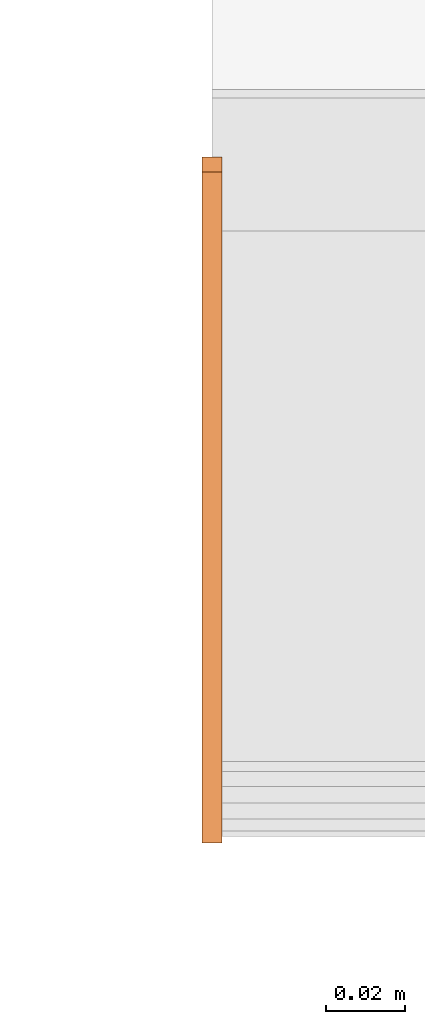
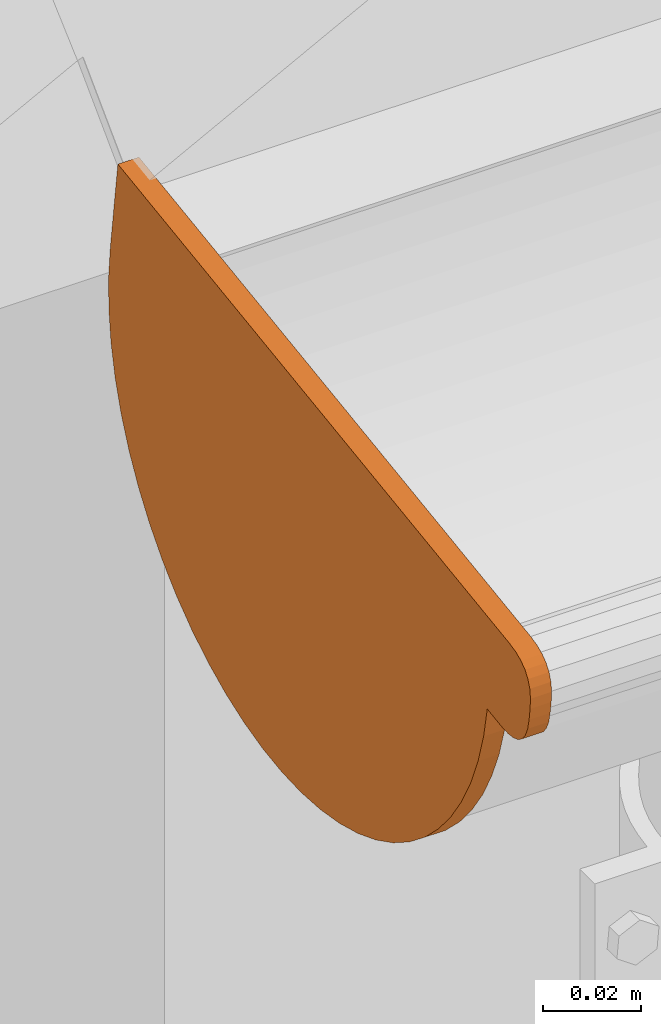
# One storey, part 24 of 43: 1 proxy.
"""IFC2X3 building model written with IfcOpenShell, lengths in millimetres."""

from ifc_helpers import new_model, si_unit, frame, origin_with_axes, place, context, project, spatial, faceted_brep, element, save


model = new_model("IFC2X3")

# Units and contexts
model_context = context("Model", 3, world=origin_with_axes())
ifc_project = project(units=[si_unit("LENGTHUNIT", "METRE", prefix="MILLI")], contexts=[model_context])

# Site, building, storey
site_placement = place(None, origin_with_axes())
site = spatial("IfcSite", under=ifc_project, at=site_placement, Name="Site", CompositionType="ELEMENT")
building_placement = place(site_placement, origin_with_axes())
building = spatial("IfcBuilding", under=site, at=building_placement, Name="?", CompositionType="ELEMENT")
storey_placement = place(building_placement, frame((0.0, 0.0, 5938.0), z_axis=(0.0, 0.0, 1.0), x_axis=(1.0, 0.0, 0.0)))
storey = spatial("IfcBuildingStorey", under=building, at=storey_placement, Name="Dachgeschoß", CompositionType="ELEMENT", Elevation=5938.0)

# Proxy
proxy_placement = place(None, origin_with_axes())
element("IfcBuildingElementProxy", 1, at=proxy_placement, inside=storey, Name="Dach03_RoofGutter#013", ObjectType="gutter", CompositionType="ELEMENT", context=model_context, shape_type="Brep", body=[
    faceted_brep([(4452.5, -7412.2509765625, 6644.93896484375), (4447.5, -7412.2509765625, 6644.93896484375), (4447.5, -7410.75647654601, 6637.18036494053), (4452.5, -7410.75647654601, 6637.18036494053), (4452.5, -7410.75634765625, 6637.18017578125), (4447.5, -7410.75634765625, 6637.18017578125), (4447.5, -7408.48454766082, 6629.61247599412), (4452.5, -7408.48454766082, 6629.61247599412), (4452.5, -7408.484375, 6629.6123046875), (4447.5, -7408.484375, 6629.6123046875), (4447.5, -7405.45867502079, 6622.31340452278), (4452.5, -7405.45867502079, 6622.31340452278), (4452.5, -7405.458984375, 6622.3134765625), (4447.5, -7405.458984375, 6622.3134765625), (4447.5, -7401.71028437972, 6615.35807661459), (4452.5, -7401.71028437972, 6615.35807661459), (4452.5, -7401.7099609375, 6615.35791015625), (4447.5, -7401.7099609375, 6615.35791015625), (4447.5, -7397.27686074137, 6608.817410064), (4452.5, -7397.27686074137, 6608.817410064), (4452.5, -7397.27734375, 6608.81787109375), (4447.5, -7397.27734375, 6608.81787109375), (4447.5, -7392.20534357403, 6602.75937116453), (4452.5, -7392.20534357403, 6602.75937116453), (4452.5, -7392.205078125, 6602.75927734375), (4447.5, -7392.205078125, 6602.75927734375), (4447.5, -7386.54617810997, 6597.24507732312), (4452.5, -7386.54617810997, 6597.24507732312), (4452.5, -7386.54638671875, 6597.2451171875), (4447.5, -7386.54638671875, 6597.2451171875), (4447.5, -7380.35858673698, 6592.33171697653), (4452.5, -7380.35858673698, 6592.33171697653), (4452.5, -7380.3583984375, 6592.33154296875), (4447.5, -7380.3583984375, 6592.33154296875), (4447.5, -7373.70539846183, 6588.06924304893), (4452.5, -7373.70539846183, 6588.06924304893), (4452.5, -7373.70556640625, 6588.0693359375), (4447.5, -7373.70556640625, 6588.0693359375), (4447.5, -7366.65536663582, 6584.50213591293), (4452.5, -7366.65536663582, 6584.50213591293), (4452.5, -7366.6552734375, 6584.501953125), (4447.5, -7366.6552734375, 6584.501953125), (4447.5, -7359.28037339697, 6581.66625324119), (4452.5, -7359.28037339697, 6581.66625324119), (4452.5, -7359.2802734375, 6581.66650390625), (4447.5, -7359.2802734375, 6581.66650390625), (4447.5, -7351.65637361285, 6579.59140394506), (4452.5, -7351.65637361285, 6579.59140394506), (4452.5, -7351.65625, 6579.59130859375), (4447.5, -7351.65625, 6579.59130859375), (4447.5, -7343.86154998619, 6578.29820858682), (4452.5, -7343.86154998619, 6578.29820858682), (4452.5, -7343.86181640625, 6578.29833984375), (4447.5, -7343.86181640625, 6578.29833984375), (4447.5, -7335.97621626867, 6577.80043982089), (4452.5, -7335.97621626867, 6577.80043982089), (4452.5, -7335.97607421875, 6577.80029296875), (4447.5, -7335.97607421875, 6577.80029296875), (4447.5, -7328.08057429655, 6578.10269295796), (4452.5, -7328.08057429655, 6578.10269295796), (4452.5, -7328.08056640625, 6578.1025390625), (4447.5, -7328.08056640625, 6578.1025390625), (4447.5, -7320.2561663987, 6579.20223903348), (4452.5, -7320.2561663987, 6579.20223903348), (4452.5, -7320.25634765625, 6579.2021484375), (4447.5, -7320.25634765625, 6579.2021484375), (4447.5, -7312.58334766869, 6581.08764841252), (4452.5, -7312.58334766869, 6581.08764841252), (4452.5, -7312.5830078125, 6581.087890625), (4447.5, -7312.5830078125, 6581.087890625), (4447.5, -7305.14020801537, 6583.74009059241), (4452.5, -7305.14020801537, 6583.74009059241), (4452.5, -7305.140625, 6583.740234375), (4447.5, -7305.140625, 6583.740234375), (4447.5, -7298.00422499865, 6587.13183440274), (4452.5, -7298.00422499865, 6587.13183440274), (4452.5, -7298.00390625, 6587.1318359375), (4447.5, -7298.00390625, 6587.1318359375), (4447.5, -7291.24730613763, 6591.22793584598), (4452.5, -7291.24730613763, 6591.22793584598), (4452.5, -7291.24755859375, 6591.2275390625), (4447.5, -7291.24755859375, 6591.2275390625), (4447.5, -7284.94005870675, 6595.98613897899), (4452.5, -7284.94005870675, 6595.98613897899), (4452.5, -7284.93994140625, 6595.986328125), (4447.5, -7284.93994140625, 6595.986328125), (4447.5, -7279.14614135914, 6601.35872833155), (4452.5, -7279.14614135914, 6601.35872833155), (4452.5, -7279.14599609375, 6601.35888671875), (4447.5, -7279.14599609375, 6601.35888671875), (4447.5, -7273.92549597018, 6607.28988671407), (4452.5, -7273.92549597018, 6607.28988671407), (4452.5, -7273.92578125, 6607.28955078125), (4447.5, -7273.92578125, 6607.28955078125), (4447.5, -7269.3319813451, 6613.71815090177), (4452.5, -7269.3319813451, 6613.71815090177), (4452.5, -7269.33203125, 6613.71826171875), (4447.5, -7269.33203125, 6613.71826171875), (4447.5, -7265.41233128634, 6620.57876151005), (4452.5, -7265.41233128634, 6620.57876151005), (4452.5, -7265.412109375, 6620.57861328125), (4447.5, -7265.412109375, 6620.57861328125), (4447.5, -7262.20650946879, 6627.80031313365), (4452.5, -7262.20650946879, 6627.80031313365), (4452.5, -7262.20654296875, 6627.80078125), (4447.5, -7262.20654296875, 6627.80078125), (4447.5, -7259.74794288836, 6635.30988116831), (4452.5, -7259.74794288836, 6635.30988116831), (4452.5, -7259.748046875, 6635.3095703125), (4447.5, -7259.748046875, 6635.3095703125), (4447.5, -7258.06184691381, 6643.02877046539), (4452.5, -7258.06184691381, 6643.02877046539), (4452.5, -7258.0615234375, 6643.02880859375), (4447.5, -7258.0615234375, 6643.02880859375), (4447.5, -7257.16482343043, 6650.87910882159), (4452.5, -7257.16482343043, 6650.87910882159), (4452.5, -7257.1650390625, 6650.87890625), (4447.5, -7257.1650390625, 6650.87890625), (4447.5, -7257.06723906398, 6658.77950638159), (4452.5, -7257.06723906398, 6658.77950638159), (4452.5, -7257.0673828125, 6658.77978515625), (4447.5, -7257.0673828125, 6658.77978515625), (4447.5, -7257.76928279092, 6666.64988526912), (4452.5, -7257.76928279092, 6666.64988526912), (4452.5, -7257.76904296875, 6666.64990234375), (4447.5, -7257.76904296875, 6666.64990234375), (4447.5, -7335.00994139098, 6655.79430188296), (4452.5, -7335.00994139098, 6655.79430188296), (4452.5, -7335.009765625, 6655.79443359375), (4447.5, -7335.009765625, 6655.79443359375), (4447.5, -7412.25066421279, 6644.93893386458), (4452.5, -7412.25066421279, 6644.93893386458), (4452.5, -7335.009765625, 6655.79443359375), (4452.5, -7258.061465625, 6643.02903359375), (4452.5, -7257.066965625, 6658.77993359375), (4452.5, -7257.768865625, 6666.65003359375), (4452.5, -7257.0673828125, 6658.77978515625), (4452.5, -7258.0618828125, 6643.02888515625), (4452.5, -7257.1651828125, 6650.87918515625), (4452.5, -7258.0615234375, 6643.02880859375), (4452.5, -7269.3316234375, 6613.71830859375), (4452.5, -7262.2063234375, 6627.80050859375), (4452.5, -7259.7477234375, 6635.30960859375), (4452.5, -7262.20654296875, 6627.80078125), (4452.5, -7269.33184296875, 6613.71858125), (4452.5, -7265.41214296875, 6620.57908125), (4452.5, -7335.009765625, 6655.79443359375), (4452.5, -7320.255965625, 6579.20253359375), (4452.5, -7269.331565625, 6613.71853359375), (4452.5, -7258.061465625, 6643.02903359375), (4452.5, -7269.33203125, 6613.71826171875), (4452.5, -7291.24763125, 6591.22766171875), (4452.5, -7279.14633125, 6601.35866171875), (4452.5, -7273.92583125, 6607.28966171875), (4452.5, -7279.14599609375, 6601.35888671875), (4452.5, -7291.24729609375, 6591.22788671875), (4452.5, -7284.93979609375, 6595.98648671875), (4452.5, -7291.24755859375, 6591.2275390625), (4452.5, -7320.25635859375, 6579.2021390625), (4452.5, -7305.14055859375, 6583.7398390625), (4452.5, -7298.00415859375, 6587.1314390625), (4452.5, -7305.140625, 6583.740234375), (4452.5, -7320.256425, 6579.202534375), (4452.5, -7312.583425, 6581.088034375), (4452.5, -7269.33203125, 6613.71826171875), (4452.5, -7320.25643125, 6579.20226171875), (4452.5, -7291.24763125, 6591.22766171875), (4452.5, -7320.25634765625, 6579.2021484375), (4452.5, -7351.65654765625, 6579.5910484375), (4452.5, -7335.97624765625, 6577.8000484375), (4452.5, -7328.08074765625, 6578.1024484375), (4452.5, -7335.97607421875, 6577.80029296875), (4452.5, -7351.65637421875, 6579.59129296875), (4452.5, -7343.86167421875, 6578.29819296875), (4452.5, -7351.65625, 6579.59130859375), (4452.5, -7380.35825, 6592.33160859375), (4452.5, -7366.65505, 6584.50210859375), (4452.5, -7359.28015, 6581.66640859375), (4452.5, -7366.6552734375, 6584.501953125), (4452.5, -7380.3584734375, 6592.331453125), (4452.5, -7373.7054734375, 6588.069153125), (4452.5, -7320.25634765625, 6579.2021484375), (4452.5, -7335.01014765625, 6655.7940484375), (4452.5, -7380.35854765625, 6592.3313484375), (4452.5, -7351.65654765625, 6579.5910484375), (4452.5, -7380.3583984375, 6592.33154296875), (4452.5, -7401.7101984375, 6615.35814296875), (4452.5, -7392.2050984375, 6602.75914296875), (4452.5, -7386.5461984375, 6597.24494296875), (4452.5, -7392.205078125, 6602.75927734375), (4452.5, -7401.710178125, 6615.35827734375), (4452.5, -7397.277078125, 6608.81777734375), (4452.5, -7335.009765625, 6655.79443359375), (4452.5, -7408.484365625, 6629.61263359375), (4452.5, -7401.709965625, 6615.35833359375), (4452.5, -7380.358165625, 6592.33173359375), (4452.5, -7401.7099609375, 6615.35791015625), (4452.5, -7408.4843609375, 6629.61221015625), (4452.5, -7405.4586609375, 6622.31331015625), (4452.5, -7335.009765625, 6655.79443359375), (4452.5, -7412.250665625, 6644.93893359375), (4452.5, -7410.756165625, 6637.18033359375), (4452.5, -7408.484365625, 6629.61263359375), (4447.5, -7410.75634765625, 6637.18017578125), (4447.5, -7397.27704765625, 6608.81767578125), (4447.5, -7405.45884765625, 6622.31357578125), (4447.5, -7408.48454765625, 6629.61247578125), (4447.5, -7405.458984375, 6622.3134765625), (4447.5, -7397.277184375, 6608.8175765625), (4447.5, -7401.710284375, 6615.3580765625), (4447.5, -7397.27734375, 6608.81787109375), (4447.5, -7373.70564375, 6588.06947109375), (4447.5, -7386.54644375, 6597.24517109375), (4447.5, -7392.20534375, 6602.75937109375), (4447.5, -7386.54638671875, 6597.2451171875), (4447.5, -7373.70558671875, 6588.0694171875), (4447.5, -7380.35858671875, 6592.3317171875), (4447.5, -7410.75634765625, 6637.18017578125), (4447.5, -7312.58314765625, 6581.08787578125), (4447.5, -7373.70534765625, 6588.06927578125), (4447.5, -7397.27704765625, 6608.81767578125), (4447.5, -7373.70556640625, 6588.0693359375), (4447.5, -7343.86186640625, 6578.2982359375), (4447.5, -7359.28046640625, 6581.6664359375), (4447.5, -7366.65536640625, 6584.5021359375), (4447.5, -7359.2802734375, 6581.66650390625), (4447.5, -7343.8616734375, 6578.29830390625), (4447.5, -7351.6563734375, 6579.59140390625), (4447.5, -7343.86181640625, 6578.29833984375), (4447.5, -7312.58331640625, 6581.08803984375), (4447.5, -7328.08071640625, 6578.10283984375), (4447.5, -7335.97621640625, 6577.80043984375), (4447.5, -7328.08056640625, 6578.1025390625), (4447.5, -7312.58316640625, 6581.0877390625), (4447.5, -7320.25616640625, 6579.2022390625), (4447.5, -7373.70556640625, 6588.0693359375), (4447.5, -7312.58336640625, 6581.0879359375), (4447.5, -7343.86186640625, 6578.2982359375), (4447.5, -7312.5830078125, 6581.087890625), (4447.5, -7284.9397078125, 6595.986390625), (4447.5, -7298.0038078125, 6587.131690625), (4447.5, -7305.1402078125, 6583.740090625), (4447.5, -7298.00390625, 6587.1318359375), (4447.5, -7284.93980625, 6595.9865359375), (4447.5, -7291.24730625, 6591.2279359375), (4447.5, -7284.93994140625, 6595.986328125), (4447.5, -7265.41214140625, 6620.578828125), (4447.5, -7273.92564140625, 6607.289728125), (4447.5, -7279.14614140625, 6601.358728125), (4447.5, -7273.92578125, 6607.28955078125), (4447.5, -7265.41228125, 6620.57865078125), (4447.5, -7269.33198125, 6613.71815078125), (4447.5, -7312.5830078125, 6581.087890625), (4447.5, -7410.7562078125, 6637.180190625), (4447.5, -7265.4119078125, 6620.578890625), (4447.5, -7284.9397078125, 6595.986390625), (4447.5, -7265.412109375, 6620.57861328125), (4447.5, -7257.165009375, 6650.87891328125), (4447.5, -7259.747909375, 6635.30941328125), (4447.5, -7262.206509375, 6627.80031328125), (4447.5, -7259.748046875, 6635.3095703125), (4447.5, -7257.165146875, 6650.8790703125), (4447.5, -7258.061846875, 6643.0287703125), (4447.5, -7410.75634765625, 6637.18017578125), (4447.5, -7257.76904765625, 6666.64987578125), (4447.5, -7257.16494765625, 6650.87917578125), (4447.5, -7265.41204765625, 6620.57887578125), (4447.5, -7257.1650390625, 6650.87890625), (4447.5, -7257.7691390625, 6666.64960625), (4447.5, -7257.0672390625, 6658.77950625), (4447.5, -7410.75634765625, 6637.18017578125), (4447.5, -7412.25084765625, 6644.93877578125), (4447.5, -7335.00994765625, 6655.79427578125), (4447.5, -7257.76904765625, 6666.64987578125), (4447.5, -7257.76904296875, 6666.64990234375), (4452.5, -7257.76904296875, 6666.64990234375), (4452.5, -7418.09054740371, 6644.10700284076), (4447.5, -7418.09054740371, 6644.10700284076), (4447.5, -7260.8671875, 6689.42919921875), (4447.5, -7421.29158760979, 6666.8829997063), (4452.5, -7421.29158760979, 6666.8829997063), (4452.5, -7260.8671875, 6689.42919921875), (4447.5, -7257.76904296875, 6666.64990234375), (4447.5, -7260.86714292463, 6689.42940178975), (4452.5, -7260.86714292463, 6689.42940178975), (4452.5, -7257.76904296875, 6666.64990234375), (4452.5, -7257.76904296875, 6666.64990234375), (4452.5, -7423.05394296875, 6644.23370234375), (4452.5, -7420.74594296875, 6643.93990234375), (4452.5, -7418.09054296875, 6644.10700234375), (4452.5, -7257.76904296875, 6666.64990234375), (4452.5, -7426.62794296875, 6646.20420234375), (4452.5, -7425.01464296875, 6644.98850234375), (4452.5, -7423.05394296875, 6644.23370234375), (4452.5, -7257.76904296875, 6666.64990234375), (4452.5, -7428.81254296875, 6650.01850234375), (4452.5, -7427.89394296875, 6647.88090234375), (4452.5, -7426.62794296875, 6646.20420234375), (4452.5, -7257.76904296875, 6666.64990234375), (4452.5, -7421.29154296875, 6666.88320234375), (4452.5, -7429.38384296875, 6652.61710234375), (4452.5, -7428.81254296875, 6650.01850234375), (4452.5, -7429.3837890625, 6652.6171875), (4452.5, -7429.6748890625, 6660.5533875), (4452.5, -7429.9686890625, 6658.2453875), (4452.5, -7429.8015890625, 6655.5899875), (4452.5, -7429.3837890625, 6652.6171875), (4452.5, -7427.7043890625, 6664.1273875), (4452.5, -7428.9200890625, 6662.5140875), (4452.5, -7429.6748890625, 6660.5533875), (4452.5, -7429.3837890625, 6652.6171875), (4452.5, -7423.8900890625, 6666.3119875), (4452.5, -7426.0276890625, 6665.3933875), (4452.5, -7427.7043890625, 6664.1273875), (4452.5, -7429.3837890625, 6652.6171875), (4452.5, -7421.2914890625, 6666.8832875), (4452.5, -7423.8900890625, 6666.3119875), (4452.5, -7257.76904296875, 6666.64990234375), (4452.5, -7260.86714296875, 6689.42940234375), (4452.5, -7421.29154296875, 6666.88320234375), (4452.5, -7429.3837890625, 6652.6171875), (4452.5, -7429.80158905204, 6655.58998747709), (4447.5, -7429.80158905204, 6655.58998747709), (4447.5, -7429.3837890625, 6652.6171875), (4447.5, -7418.0908203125, 6644.10693359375), (4447.5, -7429.8019203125, 6655.58983359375), (4447.5, -7260.8674203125, 6689.42933359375), (4447.5, -7257.7693203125, 6666.64983359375), (4447.5, -7260.8671875, 6689.42919921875), (4447.5, -7426.0277875, 6665.39309921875), (4447.5, -7423.8901875, 6666.31169921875), (4447.5, -7421.2915875, 6666.88299921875), (4447.5, -7260.8671875, 6689.42919921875), (4447.5, -7428.9201875, 6662.51379921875), (4447.5, -7427.7044875, 6664.12709921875), (4447.5, -7426.0277875, 6665.39309921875), (4447.5, -7260.8671875, 6689.42919921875), (4447.5, -7429.9687875, 6658.24509921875), (4447.5, -7429.6749875, 6660.55309921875), (4447.5, -7428.9201875, 6662.51379921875), (4447.5, -7260.8671875, 6689.42919921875), (4447.5, -7429.8016875, 6655.58969921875), (4447.5, -7429.9687875, 6658.24509921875), (4447.5, -7420.74609375, 6643.93994140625), (4447.5, -7423.05409375, 6644.23374140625), (4447.5, -7429.80179375, 6655.58994140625), (4447.5, -7418.09069375, 6644.10704140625), (4447.5, -7425.0146484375, 6644.98828125), (4447.5, -7426.6279484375, 6646.20398125), (4447.5, -7429.8016484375, 6655.58968125), (4447.5, -7423.0539484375, 6644.23348125), (4447.5, -7427.89404296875, 6647.880859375), (4447.5, -7428.81264296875, 6650.018459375), (4447.5, -7429.80174296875, 6655.589859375), (4447.5, -7426.62804296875, 6646.204159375), (4447.5, -7429.3837890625, 6652.6171875), (4447.5, -7429.8015890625, 6655.5899875), (4447.5, -7428.8124890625, 6650.0185875), (4452.5, -7420.74609375, 6643.93994140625), (4447.5, -7420.74609375, 6643.93994140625), (4447.5, -7418.09069368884, 6644.10704139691), (4452.5, -7418.09069368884, 6644.10704139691), (4447.5, -7423.89013671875, 6666.31201171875), (4452.5, -7423.89013671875, 6666.31201171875), (4452.5, -7421.291536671, 6666.88331171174), (4447.5, -7421.291536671, 6666.88331171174), (4452.5, -7423.05419921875, 6644.23388671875), (4447.5, -7423.05419921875, 6644.23388671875), (4447.5, -7420.74619921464, 6643.9400867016), (4452.5, -7420.74619921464, 6643.9400867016), (4452.5, -7425.0146484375, 6644.98828125), (4447.5, -7425.0146484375, 6644.98828125), (4447.5, -7423.05394848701, 6644.23348128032), (4452.5, -7423.05394848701, 6644.23348128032), (4452.5, -7426.6279296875, 6646.2041015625), (4447.5, -7426.6279296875, 6646.2041015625), (4447.5, -7425.01462973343, 6644.98840159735), (4452.5, -7425.01462973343, 6644.98840159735), (4452.5, -7427.89404296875, 6647.880859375), (4447.5, -7427.89404296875, 6647.880859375), (4447.5, -7426.62804300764, 6646.20415938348), (4452.5, -7426.62804300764, 6646.20415938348), (4452.5, -7428.8125, 6650.0185546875), (4447.5, -7428.8125, 6650.0185546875), (4447.5, -7427.89390000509, 6647.88095474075), (4452.5, -7427.89390000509, 6647.88095474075), (4452.5, -7429.3837890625, 6652.6171875), (4447.5, -7429.3837890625, 6652.6171875), (4447.5, -7428.81248906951, 6650.01858745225), (4452.5, -7428.81248906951, 6650.01858745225), (4447.5, -7426.02783203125, 6665.39306640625), (4452.5, -7426.02783203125, 6665.39306640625), (4452.5, -7423.8902320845, 6666.31166640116), (4447.5, -7423.8902320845, 6666.31166640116), (4447.5, -7427.70458984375, 6664.12744140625), (4452.5, -7427.70458984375, 6664.12744140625), (4452.5, -7426.02788985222, 6665.39344136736), (4447.5, -7426.02788985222, 6665.39344136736), (4447.5, -7428.92041015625, 6662.51416015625), (4452.5, -7428.92041015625, 6662.51416015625), (4452.5, -7427.7047101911, 6664.12746011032), (4447.5, -7427.7047101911, 6664.12746011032), (4447.5, -7429.6748046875, 6660.55322265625), (4452.5, -7429.6748046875, 6660.55322265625), (4452.5, -7428.92000471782, 6662.51392260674), (4447.5, -7428.92000471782, 6662.51392260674), (4447.5, -7429.96875, 6658.2451171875), (4452.5, -7429.96875, 6658.2451171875), (4452.5, -7429.67494998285, 6660.55311719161), (4447.5, -7429.67494998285, 6660.55311719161), (4447.5, -7429.8017578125, 6655.58984375), (4452.5, -7429.8017578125, 6655.58984375), (4452.5, -7429.96885780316, 6658.24524381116), (4447.5, -7429.96885780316, 6658.24524381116)], [[[0, 1, 2, 3]], [[4, 5, 6, 7]], [[8, 9, 10, 11]], [[12, 13, 14, 15]], [[16, 17, 18, 19]], [[20, 21, 22, 23]], [[24, 25, 26, 27]], [[28, 29, 30, 31]], [[32, 33, 34, 35]], [[36, 37, 38, 39]], [[40, 41, 42, 43]], [[44, 45, 46, 47]], [[48, 49, 50, 51]], [[52, 53, 54, 55]], [[56, 57, 58, 59]], [[60, 61, 62, 63]], [[64, 65, 66, 67]], [[68, 69, 70, 71]], [[72, 73, 74, 75]], [[76, 77, 78, 79]], [[80, 81, 82, 83]], [[84, 85, 86, 87]], [[88, 89, 90, 91]], [[92, 93, 94, 95]], [[96, 97, 98, 99]], [[100, 101, 102, 103]], [[104, 105, 106, 107]], [[108, 109, 110, 111]], [[112, 113, 114, 115]], [[116, 117, 118, 119]], [[120, 121, 122, 123]], [[124, 125, 126, 127]], [[128, 129, 130, 131]], [[132, 133, 134, 135]], [[136, 137, 138]], [[139, 140, 141, 142]], [[143, 144, 145]], [[146, 147, 148, 149]], [[150, 151, 152, 153]], [[154, 155, 156]], [[157, 158, 159, 160]], [[161, 162, 163]], [[164, 165, 166]], [[167, 168, 169, 170]], [[171, 172, 173]], [[174, 175, 176, 177]], [[178, 179, 180]], [[181, 182, 183, 184]], [[185, 186, 187, 188]], [[189, 190, 191]], [[192, 193, 194, 195]], [[196, 197, 198]], [[199, 200, 201, 202]], [[203, 204, 205, 206]], [[207, 208, 209]], [[210, 211, 212, 213]], [[214, 215, 216]], [[217, 218, 219, 220]], [[221, 222, 223, 224]], [[225, 226, 227]], [[228, 229, 230, 231]], [[232, 233, 234]], [[235, 236, 237]], [[238, 239, 240, 241]], [[242, 243, 244]], [[245, 246, 247, 248]], [[249, 250, 251]], [[252, 253, 254, 255]], [[256, 257, 258, 259]], [[260, 261, 262]], [[263, 264, 265, 266]], [[267, 268, 269]], [[270, 271, 272, 273]], [[274, 275, 276, 277]], [[278, 279, 280, 281]], [[282, 283, 284, 285]], [[286, 287, 288, 289]], [[290, 291, 292, 293]], [[294, 295, 296, 297]], [[298, 299, 300, 301]], [[302, 303, 304, 305]], [[306, 307, 308, 309]], [[310, 311, 312, 313]], [[314, 315, 316]], [[317, 318, 319]], [[320, 321, 322, 323]], [[324, 325, 326, 327]], [[328, 329, 330, 331]], [[332, 333, 334, 335]], [[336, 337, 338, 339]], [[340, 341, 342]], [[343, 344, 345, 346]], [[347, 348, 349, 350]], [[351, 352, 353, 354]], [[355, 356, 357]], [[358, 359, 360, 361]], [[362, 363, 364, 365]], [[366, 367, 368, 369]], [[370, 371, 372, 373]], [[374, 375, 376, 377]], [[378, 379, 380, 381]], [[382, 383, 384, 385]], [[386, 387, 388, 389]], [[390, 391, 392, 393]], [[394, 395, 396, 397]], [[398, 399, 400, 401]], [[402, 403, 404, 405]], [[406, 407, 408, 409]], [[410, 411, 412, 413]]]),
])

save(model, "model.ifc")
